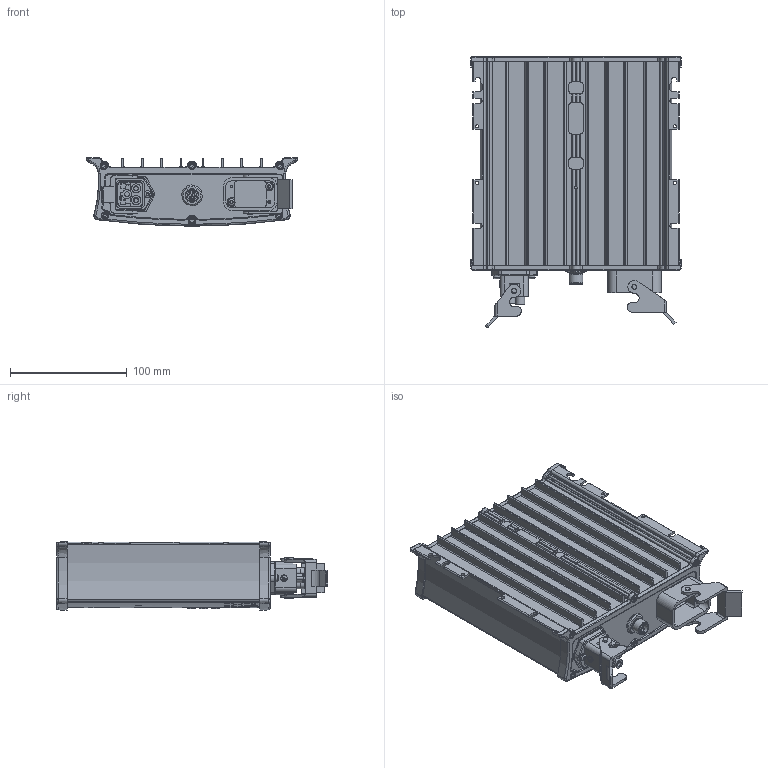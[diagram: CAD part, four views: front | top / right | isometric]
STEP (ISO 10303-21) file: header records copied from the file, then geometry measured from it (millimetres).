
FILE_DESCRIPTION (( 'STEP AP214' ), '1' );
FILE_NAME ('477.00.01.STEP', '2024-07-31T06:49:23', ( '' ), ( '' ), 'SwSTEP 2.0', 'SolidWorks 2024', '' );
FILE_SCHEMA (( 'AUTOMOTIVE_DESIGN' ));
Length unit declared in the file: millimetre
Products named in the file (1): 477.00.01
Bounding box: 180.63 x 232.7 x 58.73 mm (x, y, z)
Volume: 277494.7 mm3; surface area: 353641.9 mm2
Topology: 42 solids, 42 shells, 3116 faces, 8722 edges, 6037 vertices
Faces by surface type: plane 1443, cylinder 998, torus 376, cone 210, bspline 89
Full cylindrical faces by diameter (mm): 0.116 x1, 0.151 x1, 0.228 x2, 0.269 x2, 0.35 x1, 0.491 x1, 0.56 x6, 0.57 x1, 0.63 x1, 1 x5, 1.32 x1, 1.5 x1, 2 x2, 2.2 x1, 2.3 x2, 2.4 x4, 2.459 x2, 2.5 x1, 2.7 x4, 2.85 x2, 3 x19, 3.2 x4, 3.3 x2, 3.5 x6, 3.6 x12, 4 x4, 4.2 x5, 4.4 x4, 5 x7, 6 x32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
Entity records: 161302 total; most frequent: CARTESIAN_POINT 48013, ORIENTED_EDGE 16694, DIRECTION 15657, EDGE_CURVE 8347, VERTEX_POINT 5942, AXIS2_PLACEMENT_3D 5890, VECTOR 3877, LINE 3877
